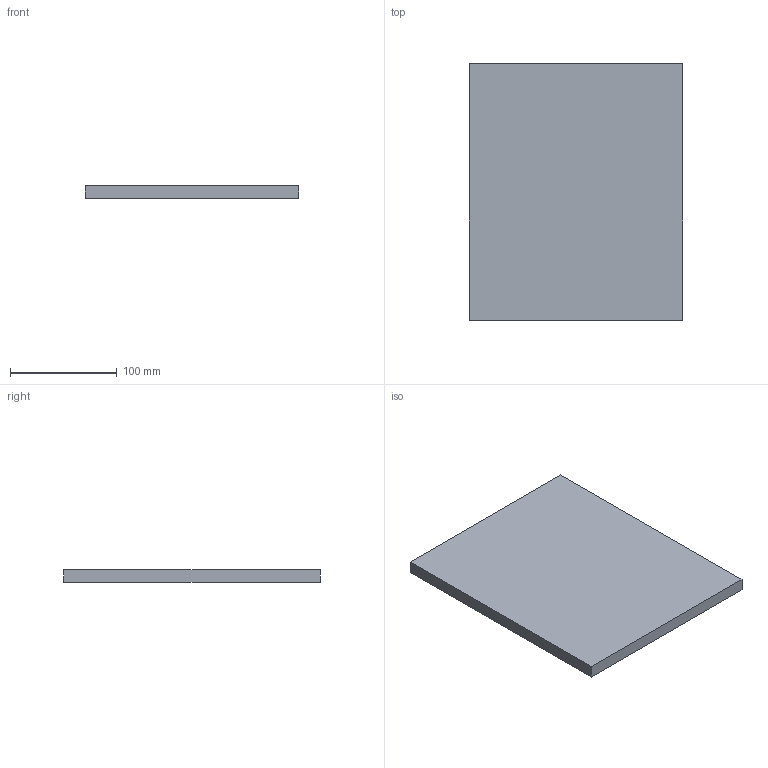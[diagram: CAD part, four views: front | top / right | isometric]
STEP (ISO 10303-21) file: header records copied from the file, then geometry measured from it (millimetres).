
FILE_DESCRIPTION(('Open CASCADE Model'),'2;1');
FILE_NAME('Open CASCADE Shape Model','2026-10-19T10:09:19',('Author'),( 'Open CASCADE'),'Open CASCADE STEP processor 8.0','Open CASCADE 8.0' ,'Unknown');
FILE_SCHEMA(('AUTOMOTIVE_DESIGN { 1 0 10303 214 1 1 1 1 }'));
Length unit declared in the file: millimetre
Products named in the file (1): U01_LATERAL_200x240x12_P05 25
Bounding box: 200 x 240 x 12 mm (x, y, z)
Volume: 576000 mm3; surface area: 106560 mm2
Topology: 1 solids, 1 shells, 6 faces, 12 edges, 8 vertices
Faces by surface type: plane 6
Entity records: 322 total; most frequent: CARTESIAN_POINT 51, DIRECTION 50, LINE 36, VECTOR 36, ORIENTED_EDGE 24, PCURVE 24, DEFINITIONAL_REPRESENTATION 24, EDGE_CURVE 12
